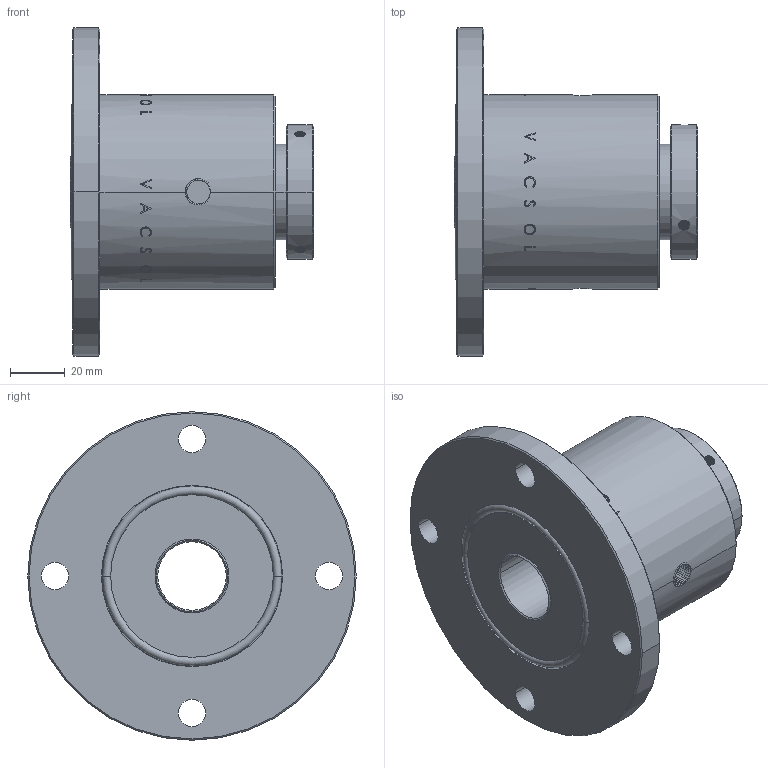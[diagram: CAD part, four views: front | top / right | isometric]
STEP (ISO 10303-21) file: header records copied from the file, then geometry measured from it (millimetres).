
FILE_DESCRIPTION (( 'STEP AP203' ), '1' );
FILE_NAME ('p14251.STEP', '2010-12-04T02:56:45', ( 'user' ), ( '' ), 'SwSTEP 2.0', 'SolidWorks 2007', '' );
FILE_SCHEMA (( 'CONFIG_CONTROL_DESIGN' ));
Length unit declared in the file: millimetre
Products named in the file (1): p14251
Bounding box: 88.76 x 120 x 120 mm (x, y, z)
Volume: 340436.2 mm3; surface area: 58372.5 mm2
Topology: 2 solids, 2 shells, 541 faces, 1494 edges, 986 vertices
Faces by surface type: cylinder 304, bspline 187, plane 26, cone 20, torus 4
Entity records: 37944 total; most frequent: CARTESIAN_POINT 27117, ORIENTED_EDGE 2988, EDGE_CURVE 1494, DIRECTION 1241, VERTEX_POINT 986, EDGE_LOOP 588, B_SPLINE_CURVE_WITH_KNOTS 578, ADVANCED_FACE 541
